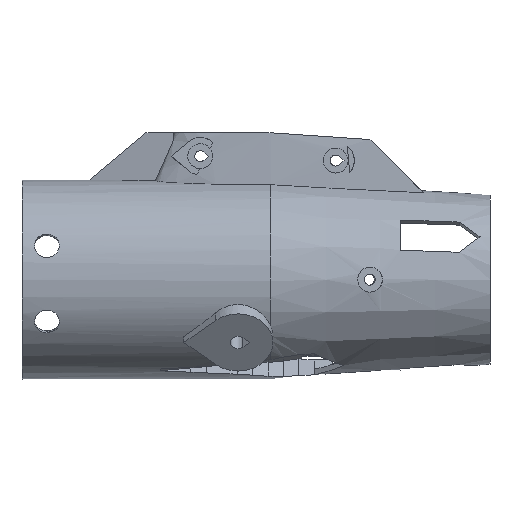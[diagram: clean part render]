
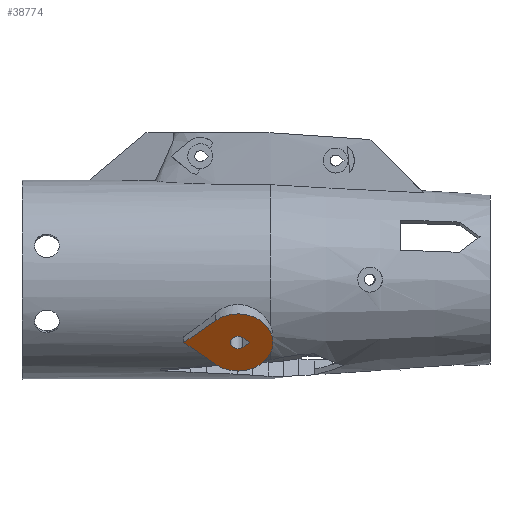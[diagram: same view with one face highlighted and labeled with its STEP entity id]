
A CAD part, front view. The second image highlights one B-rep face of the part: STEP entity #38774.
In plain terms, the highlighted planar face has unit normal (0, -0.819, -0.574).
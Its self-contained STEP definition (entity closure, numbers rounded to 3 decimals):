
#1913 = CYLINDRICAL_SURFACE('',#1914,7.);
#1914 = AXIS2_PLACEMENT_3D('',#1915,#1916,#1917);
#1915 = CARTESIAN_POINT('',(413.4,-9.83,-6.883));
#1916 = DIRECTION('',(-0.,-0.819,-0.574));
#1917 = DIRECTION('',(-0.,-0.574,0.819));
#1984 = PLANE('',#1985);
#1985 = AXIS2_PLACEMENT_3D('',#1986,#1987,#1988);
#1986 = CARTESIAN_POINT('',(408.9,-6.754,
    -11.275));
#1987 = DIRECTION('',(0.643,-0.439,0.628));
#1988 = DIRECTION('',(0.766,0.369,-0.527));
#2016 = PLANE('',#2017);
#2017 = AXIS2_PLACEMENT_3D('',#2018,#2019,#2020);
#2018 = CARTESIAN_POINT('',(402.51,-9.83,
    -6.883));
#2019 = DIRECTION('',(0.643,0.439,-0.628));
#2020 = DIRECTION('',(-0.766,0.369,-0.527));
#38637 = CYLINDRICAL_SURFACE('',#38638,1.525);
#38638 = AXIS2_PLACEMENT_3D('',#38639,#38640,#38641);
#38639 = CARTESIAN_POINT('',(413.4,-4.096,-2.868));
#38640 = DIRECTION('',(-0.,-0.819,-0.574));
#38641 = DIRECTION('',(-0.,-0.574,0.819));
#38665 = PLANE('',#38666);
#38666 = AXIS2_PLACEMENT_3D('',#38667,#38668,#38669);
#38667 = CARTESIAN_POINT('',(414.38,-3.426,
    -3.825));
#38668 = DIRECTION('',(0.643,0.439,-0.628));
#38669 = DIRECTION('',(-0.766,0.369,-0.527));
#38690 = PLANE('',#38691);
#38691 = AXIS2_PLACEMENT_3D('',#38692,#38693,#38694);
#38692 = CARTESIAN_POINT('',(415.772,-4.096,
    -2.868));
#38693 = DIRECTION('',(0.643,-0.439,0.628));
#38694 = DIRECTION('',(0.766,0.369,-0.527));
#38706 = VERTEX_POINT('',#38707);
#38707 = CARTESIAN_POINT('',(415.772,-18.021,
    -12.619));
#38728 = EDGE_CURVE('',#38706,#38729,#38731,.T.);
#38729 = VERTEX_POINT('',#38730);
#38730 = CARTESIAN_POINT('',(414.38,-18.691,
    -11.662));
#38731 = SURFACE_CURVE('',#38732,(#38736,#38742),.PCURVE_S1.);
#38732 = LINE('',#38733,#38734);
#38733 = CARTESIAN_POINT('',(415.076,-18.356,
    -12.14));
#38734 = VECTOR('',#38735,1.);
#38735 = DIRECTION('',(-0.766,-0.369,0.527));
#38736 = PCURVE('',#38690,#38737);
#38737 = DEFINITIONAL_REPRESENTATION('',(#38738),#38741);
#38738 = B_SPLINE_CURVE_WITH_KNOTS('',1,(#38739,#38740),.UNSPECIFIED.,
  .F.,.F.,(2,2),(-0.909,0.909),
  .PIECEWISE_BEZIER_KNOTS.);
#38739 = CARTESIAN_POINT('',(0.,-17.));
#38740 = CARTESIAN_POINT('',(-1.817,-17.));
#38741 = ( GEOMETRIC_REPRESENTATION_CONTEXT(2) 
PARAMETRIC_REPRESENTATION_CONTEXT() REPRESENTATION_CONTEXT('2D SPACE',''
  ) );
#38742 = PCURVE('',#38743,#38748);
#38743 = PLANE('',#38744);
#38744 = AXIS2_PLACEMENT_3D('',#38745,#38746,#38747);
#38745 = CARTESIAN_POINT('',(413.4,-18.021,-12.619));
#38746 = DIRECTION('',(-0.,-0.819,-0.574));
#38747 = DIRECTION('',(0.,0.574,-0.819));
#38748 = DEFINITIONAL_REPRESENTATION('',(#38749),#38753);
#38749 = LINE('',#38750,#38751);
#38750 = CARTESIAN_POINT('',(-0.584,1.676));
#38751 = VECTOR('',#38752,1.);
#38752 = DIRECTION('',(-0.643,-0.766));
#38753 = ( GEOMETRIC_REPRESENTATION_CONTEXT(2) 
PARAMETRIC_REPRESENTATION_CONTEXT() REPRESENTATION_CONTEXT('2D SPACE',''
  ) );
#38774 = ADVANCED_FACE('',(#38775,#38851),#38743,.T.);
#38775 = FACE_BOUND('',#38776,.F.);
#38776 = EDGE_LOOP('',(#38777,#38807,#38830));
#38777 = ORIENTED_EDGE('',*,*,#38778,.T.);
#38778 = EDGE_CURVE('',#38779,#38781,#38783,.T.);
#38779 = VERTEX_POINT('',#38780);
#38780 = CARTESIAN_POINT('',(408.9,-21.097,
    -8.226));
#38781 = VERTEX_POINT('',#38782);
#38782 = CARTESIAN_POINT('',(408.9,-14.946,
    -17.011));
#38783 = SURFACE_CURVE('',#38784,(#38789,#38800),.PCURVE_S1.);
#38784 = CIRCLE('',#38785,7.);
#38785 = AXIS2_PLACEMENT_3D('',#38786,#38787,#38788);
#38786 = CARTESIAN_POINT('',(413.4,-18.021,-12.619));
#38787 = DIRECTION('',(0.,0.819,0.574));
#38788 = DIRECTION('',(-0.643,-0.439,0.628));
#38789 = PCURVE('',#38743,#38790);
#38790 = DEFINITIONAL_REPRESENTATION('',(#38791),#38799);
#38791 = ( BOUNDED_CURVE() B_SPLINE_CURVE(2,(#38792,#38793,#38794,#38795
    ,#38796,#38797,#38798),.UNSPECIFIED.,.T.,.F.) 
B_SPLINE_CURVE_WITH_KNOTS((1,2,2,2,2,1),(-2.094,0.,
    2.094,4.189,6.283,8.378),
.UNSPECIFIED.) CURVE() GEOMETRIC_REPRESENTATION_ITEM() 
RATIONAL_B_SPLINE_CURVE((1.,0.5,1.,0.5,1.,0.5,1.)) REPRESENTATION_ITEM(
  '') );
#38792 = CARTESIAN_POINT('',(-5.362,-4.5));
#38793 = CARTESIAN_POINT('',(-13.156,4.788));
#38794 = CARTESIAN_POINT('',(-1.216,6.894));
#38795 = CARTESIAN_POINT('',(10.725,8.999));
#38796 = CARTESIAN_POINT('',(6.578,-2.394));
#38797 = CARTESIAN_POINT('',(2.431,-13.787));
#38798 = CARTESIAN_POINT('',(-5.362,-4.5));
#38799 = ( GEOMETRIC_REPRESENTATION_CONTEXT(2) 
PARAMETRIC_REPRESENTATION_CONTEXT() REPRESENTATION_CONTEXT('2D SPACE',''
  ) );
#38800 = PCURVE('',#1913,#38801);
#38801 = DEFINITIONAL_REPRESENTATION('',(#38802),#38806);
#38802 = LINE('',#38803,#38804);
#38803 = CARTESIAN_POINT('',(-5.585,10.));
#38804 = VECTOR('',#38805,1.);
#38805 = DIRECTION('',(-1.,0.));
#38806 = ( GEOMETRIC_REPRESENTATION_CONTEXT(2) 
PARAMETRIC_REPRESENTATION_CONTEXT() REPRESENTATION_CONTEXT('2D SPACE',''
  ) );
#38807 = ORIENTED_EDGE('',*,*,#38808,.T.);
#38808 = EDGE_CURVE('',#38781,#38809,#38811,.T.);
#38809 = VERTEX_POINT('',#38810);
#38810 = CARTESIAN_POINT('',(402.51,-18.021,
    -12.619));
#38811 = SURFACE_CURVE('',#38812,(#38816,#38823),.PCURVE_S1.);
#38812 = LINE('',#38813,#38814);
#38813 = CARTESIAN_POINT('',(408.9,-14.946,
    -17.011));
#38814 = VECTOR('',#38815,1.);
#38815 = DIRECTION('',(-0.766,-0.369,0.527));
#38816 = PCURVE('',#38743,#38817);
#38817 = DEFINITIONAL_REPRESENTATION('',(#38818),#38822);
#38818 = LINE('',#38819,#38820);
#38819 = CARTESIAN_POINT('',(5.362,-4.5));
#38820 = VECTOR('',#38821,1.);
#38821 = DIRECTION('',(-0.643,-0.766));
#38822 = ( GEOMETRIC_REPRESENTATION_CONTEXT(2) 
PARAMETRIC_REPRESENTATION_CONTEXT() REPRESENTATION_CONTEXT('2D SPACE',''
  ) );
#38823 = PCURVE('',#1984,#38824);
#38824 = DEFINITIONAL_REPRESENTATION('',(#38825),#38829);
#38825 = LINE('',#38826,#38827);
#38826 = CARTESIAN_POINT('',(0.,-10.));
#38827 = VECTOR('',#38828,1.);
#38828 = DIRECTION('',(-1.,0.));
#38829 = ( GEOMETRIC_REPRESENTATION_CONTEXT(2) 
PARAMETRIC_REPRESENTATION_CONTEXT() REPRESENTATION_CONTEXT('2D SPACE',''
  ) );
#38830 = ORIENTED_EDGE('',*,*,#38831,.T.);
#38831 = EDGE_CURVE('',#38809,#38779,#38832,.T.);
#38832 = SURFACE_CURVE('',#38833,(#38837,#38844),.PCURVE_S1.);
#38833 = LINE('',#38834,#38835);
#38834 = CARTESIAN_POINT('',(402.51,-18.021,
    -12.619));
#38835 = VECTOR('',#38836,1.);
#38836 = DIRECTION('',(0.766,-0.369,0.527));
#38837 = PCURVE('',#38743,#38838);
#38838 = DEFINITIONAL_REPRESENTATION('',(#38839),#38843);
#38839 = LINE('',#38840,#38841);
#38840 = CARTESIAN_POINT('',(-0.,-10.89));
#38841 = VECTOR('',#38842,1.);
#38842 = DIRECTION('',(-0.643,0.766));
#38843 = ( GEOMETRIC_REPRESENTATION_CONTEXT(2) 
PARAMETRIC_REPRESENTATION_CONTEXT() REPRESENTATION_CONTEXT('2D SPACE',''
  ) );
#38844 = PCURVE('',#2016,#38845);
#38845 = DEFINITIONAL_REPRESENTATION('',(#38846),#38850);
#38846 = LINE('',#38847,#38848);
#38847 = CARTESIAN_POINT('',(0.,-10.));
#38848 = VECTOR('',#38849,1.);
#38849 = DIRECTION('',(-1.,0.));
#38850 = ( GEOMETRIC_REPRESENTATION_CONTEXT(2) 
PARAMETRIC_REPRESENTATION_CONTEXT() REPRESENTATION_CONTEXT('2D SPACE',''
  ) );
#38851 = FACE_BOUND('',#38852,.F.);
#38852 = EDGE_LOOP('',(#38853,#38881,#38901));
#38853 = ORIENTED_EDGE('',*,*,#38854,.F.);
#38854 = EDGE_CURVE('',#38855,#38729,#38857,.T.);
#38855 = VERTEX_POINT('',#38856);
#38856 = CARTESIAN_POINT('',(414.38,-17.351,
    -13.576));
#38857 = SURFACE_CURVE('',#38858,(#38863,#38874),.PCURVE_S1.);
#38858 = CIRCLE('',#38859,1.525);
#38859 = AXIS2_PLACEMENT_3D('',#38860,#38861,#38862);
#38860 = CARTESIAN_POINT('',(413.4,-18.021,-12.619));
#38861 = DIRECTION('',(0.,0.819,0.574)
  );
#38862 = DIRECTION('',(0.643,0.439,-0.628));
#38863 = PCURVE('',#38743,#38864);
#38864 = DEFINITIONAL_REPRESENTATION('',(#38865),#38873);
#38865 = ( BOUNDED_CURVE() B_SPLINE_CURVE(2,(#38866,#38867,#38868,#38869
    ,#38870,#38871,#38872),.UNSPECIFIED.,.T.,.F.) 
B_SPLINE_CURVE_WITH_KNOTS((1,2,2,2,2,1),(-2.094,0.,
    2.094,4.189,6.283,8.378),
.UNSPECIFIED.) CURVE() GEOMETRIC_REPRESENTATION_ITEM() 
RATIONAL_B_SPLINE_CURVE((1.,0.5,1.,0.5,1.,0.5,1.)) REPRESENTATION_ITEM(
  '') );
#38866 = CARTESIAN_POINT('',(1.168,0.98));
#38867 = CARTESIAN_POINT('',(2.866,-1.043));
#38868 = CARTESIAN_POINT('',(0.265,-1.502));
#38869 = CARTESIAN_POINT('',(-2.336,-1.961));
#38870 = CARTESIAN_POINT('',(-1.433,0.522));
#38871 = CARTESIAN_POINT('',(-0.53,3.004));
#38872 = CARTESIAN_POINT('',(1.168,0.98));
#38873 = ( GEOMETRIC_REPRESENTATION_CONTEXT(2) 
PARAMETRIC_REPRESENTATION_CONTEXT() REPRESENTATION_CONTEXT('2D SPACE',''
  ) );
#38874 = PCURVE('',#38637,#38875);
#38875 = DEFINITIONAL_REPRESENTATION('',(#38876),#38880);
#38876 = LINE('',#38877,#38878);
#38877 = CARTESIAN_POINT('',(-2.443,17.));
#38878 = VECTOR('',#38879,1.);
#38879 = DIRECTION('',(-1.,-0.));
#38880 = ( GEOMETRIC_REPRESENTATION_CONTEXT(2) 
PARAMETRIC_REPRESENTATION_CONTEXT() REPRESENTATION_CONTEXT('2D SPACE',''
  ) );
#38881 = ORIENTED_EDGE('',*,*,#38882,.T.);
#38882 = EDGE_CURVE('',#38855,#38706,#38883,.T.);
#38883 = SURFACE_CURVE('',#38884,(#38888,#38895),.PCURVE_S1.);
#38884 = LINE('',#38885,#38886);
#38885 = CARTESIAN_POINT('',(414.38,-17.351,
    -13.576));
#38886 = VECTOR('',#38887,1.);
#38887 = DIRECTION('',(0.766,-0.369,0.527));
#38888 = PCURVE('',#38743,#38889);
#38889 = DEFINITIONAL_REPRESENTATION('',(#38890),#38894);
#38890 = LINE('',#38891,#38892);
#38891 = CARTESIAN_POINT('',(1.168,0.98));
#38892 = VECTOR('',#38893,1.);
#38893 = DIRECTION('',(-0.643,0.766));
#38894 = ( GEOMETRIC_REPRESENTATION_CONTEXT(2) 
PARAMETRIC_REPRESENTATION_CONTEXT() REPRESENTATION_CONTEXT('2D SPACE',''
  ) );
#38895 = PCURVE('',#38665,#38896);
#38896 = DEFINITIONAL_REPRESENTATION('',(#38897),#38900);
#38897 = B_SPLINE_CURVE_WITH_KNOTS('',1,(#38898,#38899),.UNSPECIFIED.,
  .F.,.F.,(2,2),(0.,1.817),
  .PIECEWISE_BEZIER_KNOTS.);
#38898 = CARTESIAN_POINT('',(0.,-17.));
#38899 = CARTESIAN_POINT('',(-1.817,-17.));
#38900 = ( GEOMETRIC_REPRESENTATION_CONTEXT(2) 
PARAMETRIC_REPRESENTATION_CONTEXT() REPRESENTATION_CONTEXT('2D SPACE',''
  ) );
#38901 = ORIENTED_EDGE('',*,*,#38728,.T.);
